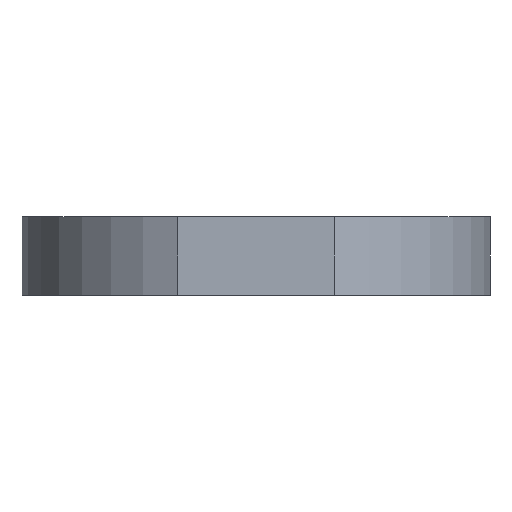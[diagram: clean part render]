
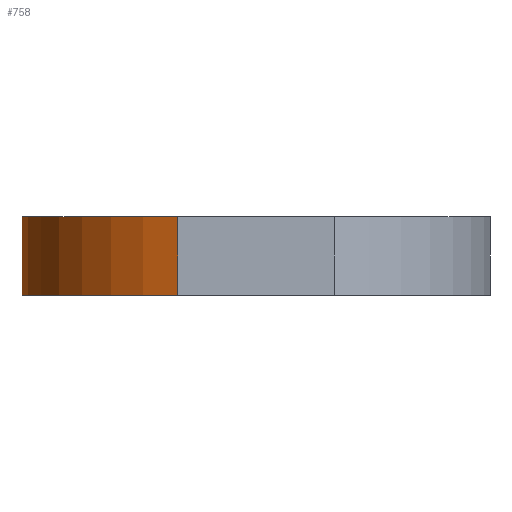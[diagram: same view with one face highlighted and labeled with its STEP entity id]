
A CAD part, left-side view. The second image highlights one B-rep face of the part: STEP entity #758.
In plain terms, the highlighted cylindrical face has radius 12 mm (diameter 24 mm), a partial arc.
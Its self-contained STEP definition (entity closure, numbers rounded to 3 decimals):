
#22 = VERTEX_POINT('',#23);
#23 = CARTESIAN_POINT('',(36.314,4.,58.));
#32 = PLANE('',#33);
#33 = AXIS2_PLACEMENT_3D('',#34,#35,#36);
#34 = CARTESIAN_POINT('',(25.,0.,58.));
#35 = DIRECTION('',(0.,0.,1.));
#36 = DIRECTION('',(1.,0.,-0.));
#44 = PLANE('',#45);
#45 = AXIS2_PLACEMENT_3D('',#46,#47,#48);
#46 = CARTESIAN_POINT('',(10.,4.,58.));
#47 = DIRECTION('',(0.,1.,0.));
#48 = DIRECTION('',(0.,0.,1.));
#56 = EDGE_CURVE('',#22,#57,#59,.T.);
#57 = VERTEX_POINT('',#58);
#58 = CARTESIAN_POINT('',(13.686,4.,58.));
#59 = SURFACE_CURVE('',#60,(#65,#72),.PCURVE_S1.);
#60 = CIRCLE('',#61,12.);
#61 = AXIS2_PLACEMENT_3D('',#62,#63,#64);
#62 = CARTESIAN_POINT('',(25.,0.,58.));
#63 = DIRECTION('',(0.,0.,1.));
#64 = DIRECTION('',(1.,0.,-0.));
#65 = PCURVE('',#32,#66);
#66 = DEFINITIONAL_REPRESENTATION('',(#67),#71);
#67 = CIRCLE('',#68,12.);
#68 = AXIS2_PLACEMENT_2D('',#69,#70);
#69 = CARTESIAN_POINT('',(0.,0.));
#70 = DIRECTION('',(1.,0.));
#71 = ( GEOMETRIC_REPRESENTATION_CONTEXT(2) 
PARAMETRIC_REPRESENTATION_CONTEXT() REPRESENTATION_CONTEXT('2D SPACE',''
  ) );
#72 = PCURVE('',#73,#78);
#73 = CYLINDRICAL_SURFACE('',#74,12.);
#74 = AXIS2_PLACEMENT_3D('',#75,#76,#77);
#75 = CARTESIAN_POINT('',(25.,0.,58.));
#76 = DIRECTION('',(0.,0.,1.));
#77 = DIRECTION('',(1.,0.,-0.));
#78 = DEFINITIONAL_REPRESENTATION('',(#79),#83);
#79 = LINE('',#80,#81);
#80 = CARTESIAN_POINT('',(0.,0.));
#81 = VECTOR('',#82,1.);
#82 = DIRECTION('',(1.,0.));
#83 = ( GEOMETRIC_REPRESENTATION_CONTEXT(2) 
PARAMETRIC_REPRESENTATION_CONTEXT() REPRESENTATION_CONTEXT('2D SPACE',''
  ) );
#101 = PLANE('',#102);
#102 = AXIS2_PLACEMENT_3D('',#103,#104,#105);
#103 = CARTESIAN_POINT('',(10.,4.,58.));
#104 = DIRECTION('',(0.,1.,0.));
#105 = DIRECTION('',(0.,0.,1.));
#689 = EDGE_CURVE('',#22,#690,#692,.T.);
#690 = VERTEX_POINT('',#691);
#691 = CARTESIAN_POINT('',(36.314,4.,62.));
#692 = SURFACE_CURVE('',#693,(#697,#703),.PCURVE_S1.);
#693 = LINE('',#694,#695);
#694 = CARTESIAN_POINT('',(36.314,4.,58.));
#695 = VECTOR('',#696,1.);
#696 = DIRECTION('',(0.,0.,1.));
#697 = PCURVE('',#44,#698);
#698 = DEFINITIONAL_REPRESENTATION('',(#699),#702);
#699 = B_SPLINE_CURVE_WITH_KNOTS('',1,(#700,#701),.UNSPECIFIED.,.F.,.F.,
  (2,2),(0.,4.),.PIECEWISE_BEZIER_KNOTS.);
#700 = CARTESIAN_POINT('',(0.,26.314));
#701 = CARTESIAN_POINT('',(4.,26.314));
#702 = ( GEOMETRIC_REPRESENTATION_CONTEXT(2) 
PARAMETRIC_REPRESENTATION_CONTEXT() REPRESENTATION_CONTEXT('2D SPACE',''
  ) );
#703 = PCURVE('',#73,#704);
#704 = DEFINITIONAL_REPRESENTATION('',(#705),#708);
#705 = B_SPLINE_CURVE_WITH_KNOTS('',1,(#706,#707),.UNSPECIFIED.,.F.,.F.,
  (2,2),(0.,4.),.PIECEWISE_BEZIER_KNOTS.);
#706 = CARTESIAN_POINT('',(0.34,0.));
#707 = CARTESIAN_POINT('',(0.34,4.));
#708 = ( GEOMETRIC_REPRESENTATION_CONTEXT(2) 
PARAMETRIC_REPRESENTATION_CONTEXT() REPRESENTATION_CONTEXT('2D SPACE',''
  ) );
#726 = PLANE('',#727);
#727 = AXIS2_PLACEMENT_3D('',#728,#729,#730);
#728 = CARTESIAN_POINT('',(10.,-4.,62.));
#729 = DIRECTION('',(0.,0.,1.));
#730 = DIRECTION('',(1.,0.,0.));
#758 = ADVANCED_FACE('',(#759),#73,.T.);
#759 = FACE_BOUND('',#760,.T.);
#760 = EDGE_LOOP('',(#761,#785,#786,#787));
#761 = ORIENTED_EDGE('',*,*,#762,.F.);
#762 = EDGE_CURVE('',#690,#763,#765,.T.);
#763 = VERTEX_POINT('',#764);
#764 = CARTESIAN_POINT('',(13.686,4.,62.));
#765 = SURFACE_CURVE('',#766,(#771,#778),.PCURVE_S1.);
#766 = CIRCLE('',#767,12.);
#767 = AXIS2_PLACEMENT_3D('',#768,#769,#770);
#768 = CARTESIAN_POINT('',(25.,0.,62.));
#769 = DIRECTION('',(0.,0.,1.));
#770 = DIRECTION('',(1.,0.,-0.));
#771 = PCURVE('',#73,#772);
#772 = DEFINITIONAL_REPRESENTATION('',(#773),#777);
#773 = LINE('',#774,#775);
#774 = CARTESIAN_POINT('',(0.,4.));
#775 = VECTOR('',#776,1.);
#776 = DIRECTION('',(1.,0.));
#777 = ( GEOMETRIC_REPRESENTATION_CONTEXT(2) 
PARAMETRIC_REPRESENTATION_CONTEXT() REPRESENTATION_CONTEXT('2D SPACE',''
  ) );
#778 = PCURVE('',#726,#779);
#779 = DEFINITIONAL_REPRESENTATION('',(#780),#784);
#780 = CIRCLE('',#781,12.);
#781 = AXIS2_PLACEMENT_2D('',#782,#783);
#782 = CARTESIAN_POINT('',(15.,4.));
#783 = DIRECTION('',(1.,0.));
#784 = ( GEOMETRIC_REPRESENTATION_CONTEXT(2) 
PARAMETRIC_REPRESENTATION_CONTEXT() REPRESENTATION_CONTEXT('2D SPACE',''
  ) );
#785 = ORIENTED_EDGE('',*,*,#689,.F.);
#786 = ORIENTED_EDGE('',*,*,#56,.T.);
#787 = ORIENTED_EDGE('',*,*,#788,.T.);
#788 = EDGE_CURVE('',#57,#763,#789,.T.);
#789 = SURFACE_CURVE('',#790,(#794,#800),.PCURVE_S1.);
#790 = LINE('',#791,#792);
#791 = CARTESIAN_POINT('',(13.686,4.,58.));
#792 = VECTOR('',#793,1.);
#793 = DIRECTION('',(0.,0.,1.));
#794 = PCURVE('',#73,#795);
#795 = DEFINITIONAL_REPRESENTATION('',(#796),#799);
#796 = B_SPLINE_CURVE_WITH_KNOTS('',1,(#797,#798),.UNSPECIFIED.,.F.,.F.,
  (2,2),(0.,4.),.PIECEWISE_BEZIER_KNOTS.);
#797 = CARTESIAN_POINT('',(2.802,0.));
#798 = CARTESIAN_POINT('',(2.802,4.));
#799 = ( GEOMETRIC_REPRESENTATION_CONTEXT(2) 
PARAMETRIC_REPRESENTATION_CONTEXT() REPRESENTATION_CONTEXT('2D SPACE',''
  ) );
#800 = PCURVE('',#101,#801);
#801 = DEFINITIONAL_REPRESENTATION('',(#802),#805);
#802 = B_SPLINE_CURVE_WITH_KNOTS('',1,(#803,#804),.UNSPECIFIED.,.F.,.F.,
  (2,2),(0.,4.),.PIECEWISE_BEZIER_KNOTS.);
#803 = CARTESIAN_POINT('',(0.,3.686));
#804 = CARTESIAN_POINT('',(4.,3.686));
#805 = ( GEOMETRIC_REPRESENTATION_CONTEXT(2) 
PARAMETRIC_REPRESENTATION_CONTEXT() REPRESENTATION_CONTEXT('2D SPACE',''
  ) );
